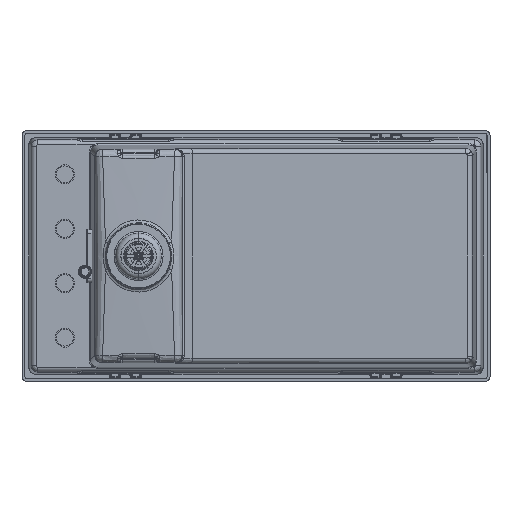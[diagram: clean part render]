
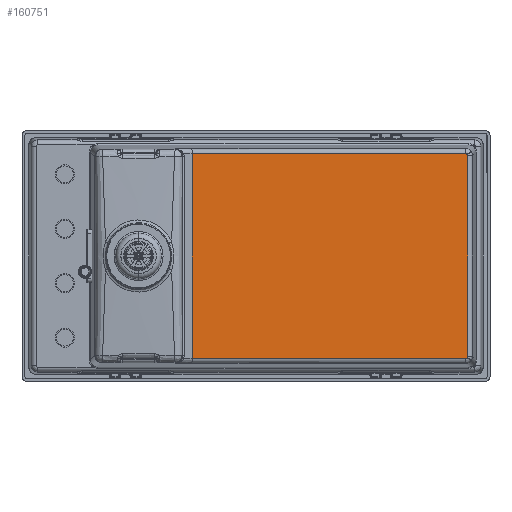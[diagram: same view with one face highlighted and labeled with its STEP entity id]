
A CAD part, front view. The second image highlights one B-rep face of the part: STEP entity #160751.
In plain terms, the highlighted planar face has unit normal (0.026, -1, 0).
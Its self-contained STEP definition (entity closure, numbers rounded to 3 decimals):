
#1168 = VERTEX_POINT ( 'NONE', #16082 ) ;
#5536 = CARTESIAN_POINT ( 'NONE',  ( 450.081, -62.469, 190.606 ) ) ;
#7689 = CARTESIAN_POINT ( 'NONE',  ( 446.081, -62.572, -183.416 ) ) ;
#8106 = CARTESIAN_POINT ( 'NONE',  ( 450.081, -62.469, -180.225 ) ) ;
#8851 = ORIENTED_EDGE ( 'NONE', *, *, #26113, .T. ) ;
#9589 = DIRECTION ( 'NONE',  ( 1., 0.026, -0.001 ) ) ;
#11626 = ORIENTED_EDGE ( 'NONE', *, *, #85780, .T. ) ;
#11888 =( BOUNDED_CURVE ( )  B_SPLINE_CURVE ( 3, ( #157099, #5536, #146864, #121501 ),
 .UNSPECIFIED., .F., .F. ) 
 B_SPLINE_CURVE_WITH_KNOTS ( ( 4, 4 ),
 ( 5.694, 6.283 ),
 .UNSPECIFIED. ) 
 CURVE ( )  GEOMETRIC_REPRESENTATION_ITEM ( )  RATIONAL_B_SPLINE_CURVE ( ( 1., 0.971, 0.971, 1. ) ) 
 REPRESENTATION_ITEM ( '' )  );
#12648 = VECTOR ( 'NONE', #9589, 1000. ) ;
#13386 = PLANE ( 'NONE',  #145177 ) ;
#16082 = CARTESIAN_POINT ( 'NONE',  ( 450.081, -62.469, 189.807 ) ) ;
#20571 = CARTESIAN_POINT ( 'NONE',  ( 449.404, -62.487, 192.031 ) ) ;
#26113 = EDGE_CURVE ( 'NONE', #94512, #130991, #147047, .T. ) ;
#27111 = CARTESIAN_POINT ( 'NONE',  ( 450.446, -62.46, -183.422 ) ) ;
#27324 = DIRECTION ( 'NONE',  ( 0., 0., -1. ) ) ;
#32912 = EDGE_CURVE ( 'NONE', #50093, #101696, #135721, .T. ) ;
#34382 = CARTESIAN_POINT ( 'NONE',  ( 450.081, -62.469, -179.427 ) ) ;
#37962 = DIRECTION ( 'NONE',  ( 0.026, -1., 0. ) ) ;
#39645 = FACE_OUTER_BOUND ( 'NONE', #118476, .T. ) ;
#40477 = DIRECTION ( 'NONE',  ( 0., 0., -1. ) ) ;
#40721 = LINE ( 'NONE', #50042, #157619 ) ;
#45447 = CARTESIAN_POINT ( 'NONE',  ( -56.251, -75.446, 193.122 ) ) ;
#50042 = CARTESIAN_POINT ( 'NONE',  ( 450.081, -62.469, 233.69 ) ) ;
#50093 = VERTEX_POINT ( 'NONE', #150680 ) ;
#51795 = CARTESIAN_POINT ( 'NONE',  ( 446.081, -62.572, -183.416 ) ) ;
#52078 =( BOUNDED_CURVE ( )  B_SPLINE_CURVE ( 3, ( #7689, #138038, #61868, #139701 ),
 .UNSPECIFIED., .F., .F. ) 
 B_SPLINE_CURVE_WITH_KNOTS ( ( 4, 4 ),
 ( 5.305, 6.283 ),
 .UNSPECIFIED. ) 
 CURVE ( )  GEOMETRIC_REPRESENTATION_ITEM ( )  RATIONAL_B_SPLINE_CURVE ( ( 1., 0.922, 0.922, 1. ) ) 
 REPRESENTATION_ITEM ( '' )  );
#52559 = DIRECTION ( 'NONE',  ( 0., 0., 1. ) ) ;
#55507 = CARTESIAN_POINT ( 'NONE',  ( 446.081, -62.572, 193.796 ) ) ;
#59771 = CARTESIAN_POINT ( 'NONE',  ( 448.646, -62.506, 193.16 ) ) ;
#61868 = CARTESIAN_POINT ( 'NONE',  ( 448.646, -62.506, -182.779 ) ) ;
#76488 = LINE ( 'NONE', #115399, #123329 ) ;
#78607 = CARTESIAN_POINT ( 'NONE',  ( 450.081, -62.469, -179.427 ) ) ;
#81238 = VERTEX_POINT ( 'NONE', #142758 ) ;
#81954 = DIRECTION ( 'NONE',  ( -1., -0.026, -0.001 ) ) ;
#82606 = EDGE_CURVE ( 'NONE', #101696, #1168, #40721, .T. ) ;
#85447 = VECTOR ( 'NONE', #81954, 1000. ) ;
#85780 = EDGE_CURVE ( 'NONE', #1168, #88399, #11888, .T. ) ;
#87456 = EDGE_CURVE ( 'NONE', #88399, #94512, #93025, .T. ) ;
#87597 = ORIENTED_EDGE ( 'NONE', *, *, #82606, .T. ) ;
#88399 = VERTEX_POINT ( 'NONE', #20571 ) ;
#93025 =( BOUNDED_CURVE ( )  B_SPLINE_CURVE ( 3, ( #165479, #59771, #163806, #124035 ),
 .UNSPECIFIED., .F., .F. ) 
 B_SPLINE_CURVE_WITH_KNOTS ( ( 4, 4 ),
 ( 0., 0.979 ),
 .UNSPECIFIED. ) 
 CURVE ( )  GEOMETRIC_REPRESENTATION_ITEM ( )  RATIONAL_B_SPLINE_CURVE ( ( 1., 0.922, 0.922, 1. ) ) 
 REPRESENTATION_ITEM ( '' )  );
#94512 = VERTEX_POINT ( 'NONE', #55507 ) ;
#101696 = VERTEX_POINT ( 'NONE', #78607 ) ;
#114708 = CARTESIAN_POINT ( 'NONE',  ( 449.849, -62.475, -180.989 ) ) ;
#115399 = CARTESIAN_POINT ( 'NONE',  ( -56.251, -75.446, 233.69 ) ) ;
#118018 = ORIENTED_EDGE ( 'NONE', *, *, #153676, .T. ) ;
#118476 = EDGE_LOOP ( 'NONE', ( #11626, #129478, #8851, #151263, #165191, #118018, #159582, #87597 ) ) ;
#121501 = CARTESIAN_POINT ( 'NONE',  ( 449.404, -62.487, 192.031 ) ) ;
#123329 = VECTOR ( 'NONE', #27324, 1000. ) ;
#124035 = CARTESIAN_POINT ( 'NONE',  ( 446.081, -62.572, 193.796 ) ) ;
#124913 = CARTESIAN_POINT ( 'NONE',  ( 449.404, -62.487, -181.651 ) ) ;
#127671 = CARTESIAN_POINT ( 'NONE',  ( 451.006, -62.446, 233.69 ) ) ;
#129478 = ORIENTED_EDGE ( 'NONE', *, *, #87456, .T. ) ;
#130991 = VERTEX_POINT ( 'NONE', #45447 ) ;
#134514 = EDGE_CURVE ( 'NONE', #130991, #81238, #76488, .T. ) ;
#135721 =( BOUNDED_CURVE ( )  B_SPLINE_CURVE ( 3, ( #124913, #114708, #8106, #34382 ),
 .UNSPECIFIED., .F., .F. ) 
 B_SPLINE_CURVE_WITH_KNOTS ( ( 4, 4 ),
 ( 0., 0.59 ),
 .UNSPECIFIED. ) 
 CURVE ( )  GEOMETRIC_REPRESENTATION_ITEM ( )  RATIONAL_B_SPLINE_CURVE ( ( 1., 0.971, 0.971, 1. ) ) 
 REPRESENTATION_ITEM ( '' )  );
#138038 = CARTESIAN_POINT ( 'NONE',  ( 447.445, -62.537, -183.417 ) ) ;
#139701 = CARTESIAN_POINT ( 'NONE',  ( 449.404, -62.487, -181.651 ) ) ;
#140621 = EDGE_CURVE ( 'NONE', #81238, #145747, #143062, .T. ) ;
#142758 = CARTESIAN_POINT ( 'NONE',  ( -56.251, -75.446, -182.741 ) ) ;
#143062 = LINE ( 'NONE', #27111, #12648 ) ;
#144557 = CARTESIAN_POINT ( 'NONE',  ( 451.059, -62.444, 193.803 ) ) ;
#145177 = AXIS2_PLACEMENT_3D ( 'NONE', #127671, #37962, #40477 ) ;
#145747 = VERTEX_POINT ( 'NONE', #51795 ) ;
#146864 = CARTESIAN_POINT ( 'NONE',  ( 449.849, -62.475, 191.369 ) ) ;
#147047 = LINE ( 'NONE', #144557, #85447 ) ;
#150680 = CARTESIAN_POINT ( 'NONE',  ( 449.404, -62.487, -181.651 ) ) ;
#151263 = ORIENTED_EDGE ( 'NONE', *, *, #134514, .T. ) ;
#153676 = EDGE_CURVE ( 'NONE', #145747, #50093, #52078, .T. ) ;
#157099 = CARTESIAN_POINT ( 'NONE',  ( 450.081, -62.469, 189.807 ) ) ;
#157619 = VECTOR ( 'NONE', #52559, 1000. ) ;
#159582 = ORIENTED_EDGE ( 'NONE', *, *, #32912, .T. ) ;
#160751 = ADVANCED_FACE ( 'NONE', ( #39645 ), #13386, .T. ) ;
#163806 = CARTESIAN_POINT ( 'NONE',  ( 447.445, -62.537, 193.798 ) ) ;
#165191 = ORIENTED_EDGE ( 'NONE', *, *, #140621, .T. ) ;
#165479 = CARTESIAN_POINT ( 'NONE',  ( 449.404, -62.487, 192.031 ) ) ;
